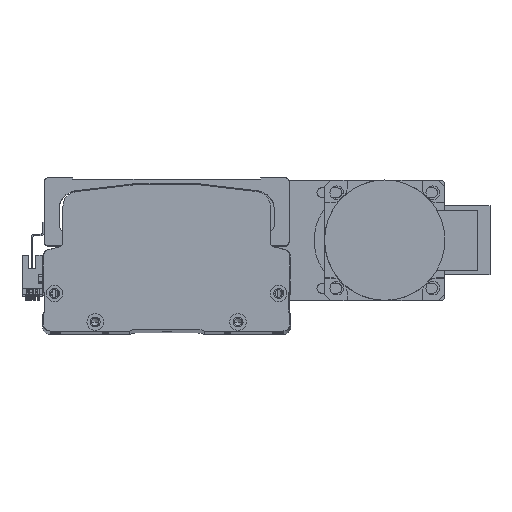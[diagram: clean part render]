
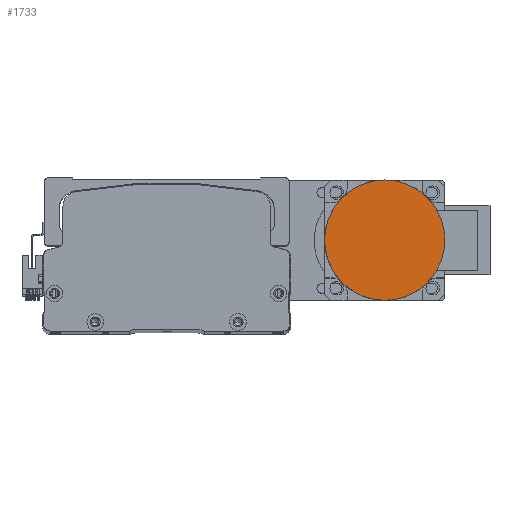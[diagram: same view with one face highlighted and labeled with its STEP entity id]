
A CAD part, top view. The second image highlights one B-rep face of the part: STEP entity #1733.
In plain terms, the highlighted planar face has unit normal (0, 0, 1) as drawn and (0, -1, 0) by its records, which use the part's own axes.
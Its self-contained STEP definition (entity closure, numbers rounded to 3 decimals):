
#1129 = VERTEX_POINT ( 'NONE', #17898 ) ;
#1733 = ADVANCED_FACE ( 'NONE', ( #12374 ), #36908, .F. ) ;
#4889 = CARTESIAN_POINT ( 'NONE',  ( 0., -27., 0. ) ) ;
#7754 = DIRECTION ( 'NONE',  ( 0., 1., 0. ) ) ;
#9805 = DIRECTION ( 'NONE',  ( 0., 0., -1. ) ) ;
#10461 = VERTEX_POINT ( 'NONE', #37620 ) ;
#11894 = EDGE_CURVE ( 'NONE', #1129, #10461, #38341, .T. ) ;
#12374 = FACE_OUTER_BOUND ( 'NONE', #46135, .T. ) ;
#17780 = CIRCLE ( 'NONE', #21363, 40. ) ;
#17898 = CARTESIAN_POINT ( 'NONE',  ( 0., -27., 40. ) ) ;
#21033 = AXIS2_PLACEMENT_3D ( 'NONE', #32025, #7754, #41828 ) ;
#21363 = AXIS2_PLACEMENT_3D ( 'NONE', #55548, #26383, #60434 ) ;
#25140 = AXIS2_PLACEMENT_3D ( 'NONE', #4889, #38942, #9805 ) ;
#25550 = EDGE_CURVE ( 'NONE', #10461, #1129, #17780, .T. ) ;
#26383 = DIRECTION ( 'NONE',  ( 0., -1., 0. ) ) ;
#26405 = ORIENTED_EDGE ( 'NONE', *, *, #25550, .T. ) ;
#32025 = CARTESIAN_POINT ( 'NONE',  ( 0., -27., 0. ) ) ;
#36908 = PLANE ( 'NONE',  #21033 ) ;
#37620 = CARTESIAN_POINT ( 'NONE',  ( 0., -27., -40. ) ) ;
#38341 = CIRCLE ( 'NONE', #25140, 40. ) ;
#38942 = DIRECTION ( 'NONE',  ( 0., -1., 0. ) ) ;
#41828 = DIRECTION ( 'NONE',  ( 0., 0., 1. ) ) ;
#44225 = ORIENTED_EDGE ( 'NONE', *, *, #11894, .T. ) ;
#46135 = EDGE_LOOP ( 'NONE', ( #26405, #44225 ) ) ;
#55548 = CARTESIAN_POINT ( 'NONE',  ( 0., -27., 0. ) ) ;
#60434 = DIRECTION ( 'NONE',  ( 0., 0., -1. ) ) ;
